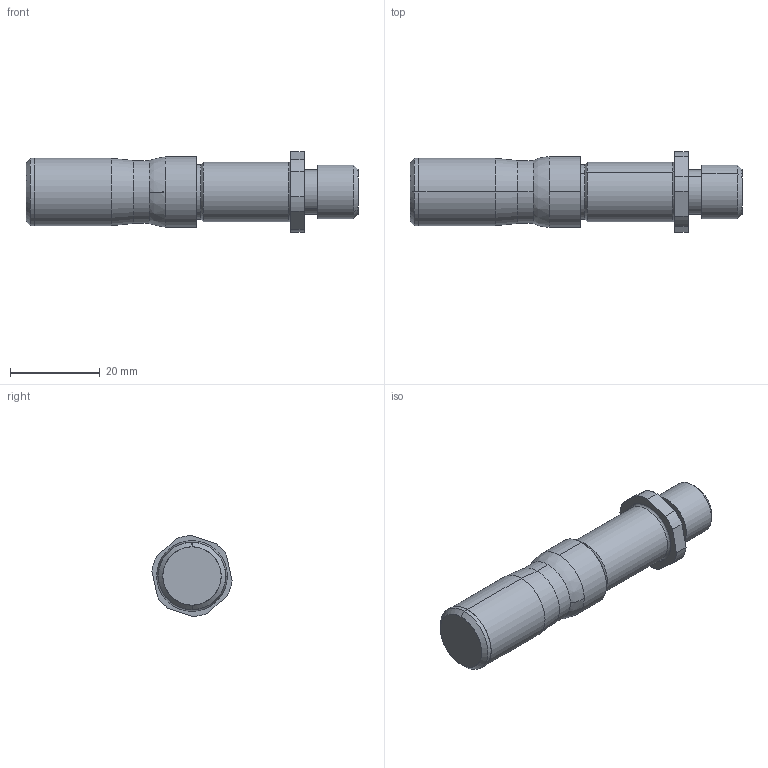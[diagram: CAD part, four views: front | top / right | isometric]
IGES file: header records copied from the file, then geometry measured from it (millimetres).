
Start section: SolidWorks IGES file using analytic representation for surfaces
Global section: file name: Z:\7-3D図面\02.3Dデータ(提出用)\電子カタログ\Ｓ／Ａ\FES\FES-1220.IGS; native system: SolidWorks 2015; preprocessor: SolidWorks 2015; author: flgijutsu02; date: 150615.133838; units: millimetre
Bounding box: 74 x 17.86 x 18 mm (x, y, z)
Surface area: 4497.6 mm2 (no closed solid volume)
Topology: 0 solids, 0 shells, 53 faces, 668 edges, 668 vertices
Faces by surface type: revolution 36, bspline 17
